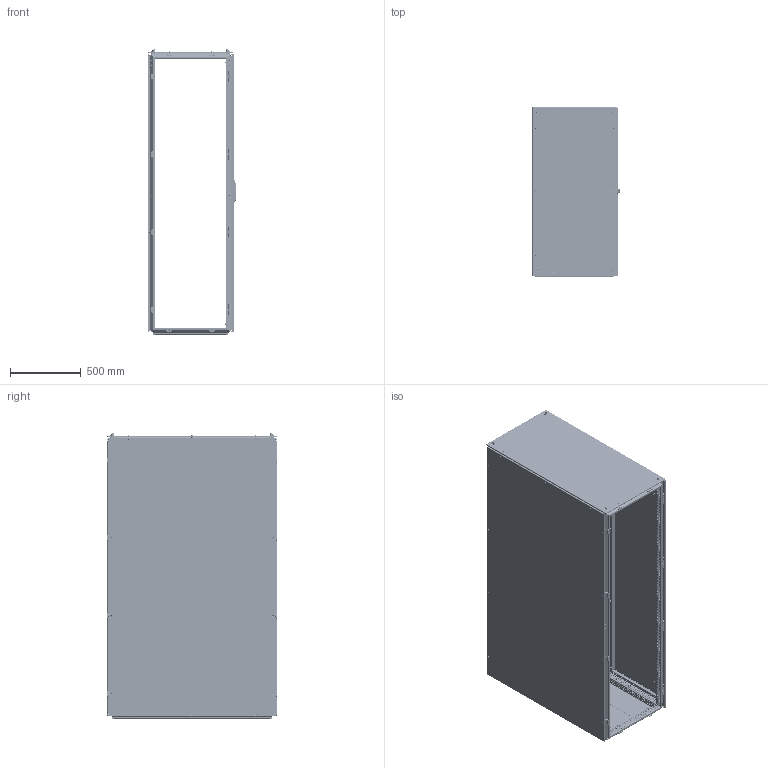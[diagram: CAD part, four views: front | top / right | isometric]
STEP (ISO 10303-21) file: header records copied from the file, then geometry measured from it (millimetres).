
FILE_DESCRIPTION(('STEP AP203'), '1');
FILE_NAME('ØÍÑ ÊÑ PRO II Êîðïóñ ÑÁ', '', ('UNSPECIFIED'), ('UNSPECIFIED'), 'C3D Converter', 'C3D Toolkit', '');
FILE_SCHEMA(('CONFIG_CONTROL_DESIGN'));
Length unit declared in the file: millimetre
Products named in the file (56): 3210.200.120.60; 3000; 3007.175; 3007.75; 3007.200; 3006; 3009.04; 3009.04.01; 3009.04.2; 3009.04.01.2; 3301; 3310; 3311; 3302; 3211; 3409; 3415; 3425; 3426; 3422.01; 3412; 3411; 2952; 3009.05; 3009.05.01; 3622.01; 3417; 3427; 3010
Assembly tree (405 placements, depth 6):
  3210.200.120.60
    3000
      3000
      (unnamed)  x96
      3007.175  x2
      (unnamed)  x22
      3007.75  x2
      3007.200  x2
      3006
      3009.04  x10
        3009.04.01
        (unnamed)
        (unnamed)
      3009.04.2  x15
        3009.04.01.2
        (unnamed)
        (unnamed)
    3301
      3310
        3311
        (unnamed)
      (unnamed)  x10
      (unnamed)  x10
      (unnamed)  x4
      (unnamed)  x4
    3302
      3211
      (unnamed)  x2
      (unnamed)  x14
    3409
      3415
        3425
          3426
          3422.01  x4
          (unnamed)  x14
          (unnamed)  x8
          (unnamed)  x2
        3412  x2
        3411  x2
        (unnamed)  x4
        (unnamed)  x14
        (unnamed)  x22
        (unnamed)  x8
        2952
          (unnamed)
            (unnamed)
            (unnamed)
            (unnamed)
            (unnamed)
            (unnamed)
        (unnamed)  x2
        3009.05  x4
          3009.05.01
          (unnamed)
          (unnamed)
        3622.01  x4
        (unnamed)  x4
      3417
        3427
          3426
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Bounding box: 623.93 x 1197 x 2016 mm (x, y, z)
Volume: 15825416.7 mm3; surface area: 20219817.6 mm2
Topology: 518 solids, 518 shells, 28934 faces, 79140 edges, 51922 vertices
Faces by surface type: plane 19054, cylinder 6979, cone 1619, bspline 691, torus 462, extrusion 90, sphere 39
Full cylindrical faces by diameter (mm): 0.5 x36, 2.6 x8, 3.71 x8, 4.134 x144, 4.3 x2, 4.5 x2590, 4.8 x24, 4.917 x36, 5 x200, 5.2 x1, 5.5 x10, 5.8 x48, 6 x81, 6.1 x8, 6.4 x8, 6.6 x36, 6.75 x36, 6.8 x200, 7 x104, 7.3 x36, 7.5 x96, 8 x136, 8.3 x16, 8.5 x11, 9.2 x82, 10 x49, 10.106 x8, 10.5 x10, 11.5 x14, 12 x48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
Entity records: 718075 total; most frequent: CARTESIAN_POINT 271459, ORIENTED_EDGE 85122, DIRECTION 79501, EDGE_CURVE 42561, VECTOR 32897, LINE 32852, VERTEX_POINT 29797, EDGE_LOOP 28164
